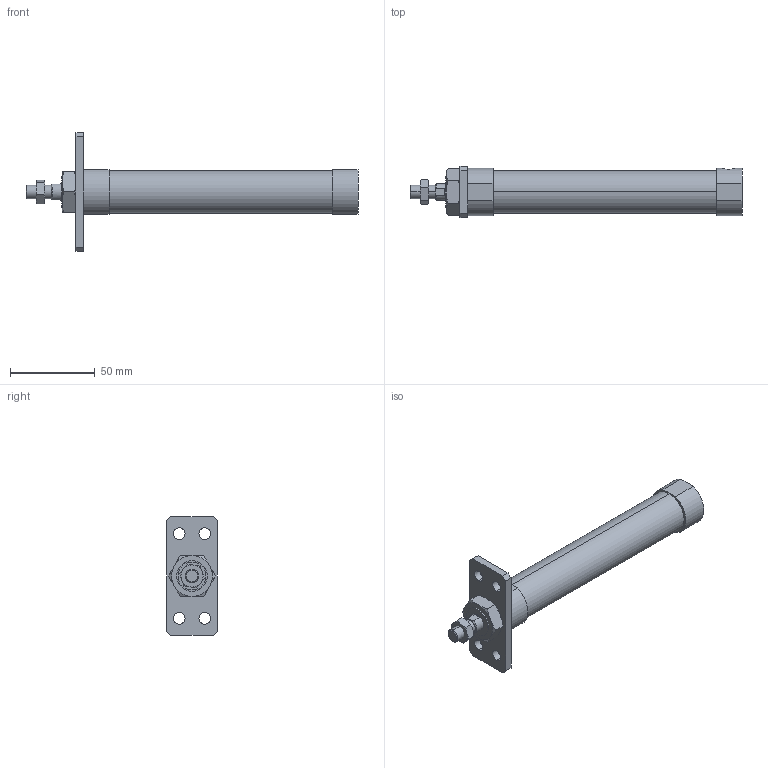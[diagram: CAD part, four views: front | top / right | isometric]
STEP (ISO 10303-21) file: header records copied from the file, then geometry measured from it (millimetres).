
FILE_DESCRIPTION (( 'STEP AP203' ), '1' );
FILE_NAME ('JGND1-20-50-A.STEP', '2016-08-04T02:14:17', ( '' ), ( '' ), 'SwSTEP 2.0', 'SolidWorks 2014', '' );
FILE_SCHEMA (( 'CONFIG_CONTROL_DESIGN' ));
Length unit declared in the file: millimetre
Products named in the file (5): J#2-20-A; J#1-20-50(P); JGND1-20-50-A
Assembly tree (4 placements, depth 2):
  JGND1-20-50-A
    J#1-20-50(P)
    (unnamed)
    (unnamed)
    J#2-20-A
Bounding box: 196 x 30 x 70 mm (x, y, z)
Volume: 96906.9 mm3; surface area: 23057.6 mm2
Topology: 4 solids, 4 shells, 101 faces, 230 edges, 144 vertices
Faces by surface type: plane 43, cylinder 30, torus 24, cone 4
Entity records: 3663 total; most frequent: CARTESIAN_POINT 872, DIRECTION 482, ORIENTED_EDGE 460, EDGE_CURVE 230, AXIS2_PLACEMENT_3D 198, VERTEX_POINT 144, EDGE_LOOP 122, FACE_OUTER_BOUND 101
